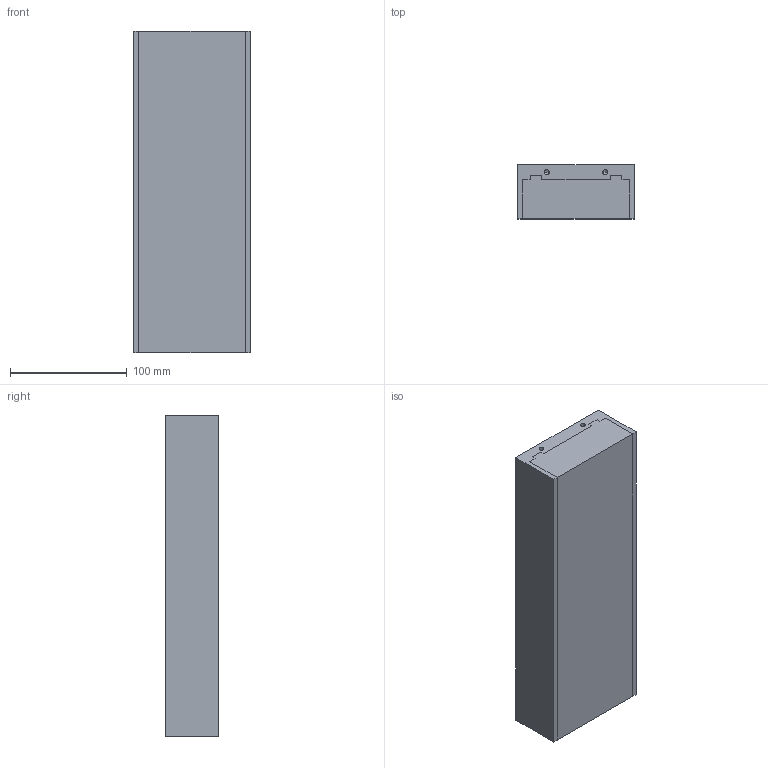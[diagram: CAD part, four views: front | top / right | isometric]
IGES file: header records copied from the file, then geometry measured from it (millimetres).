
Global section: file name: No Iges File Name specified; native system: AutoDesk Inventor R12.0; preprocessor: AutoDesk Inventor Iges Exporter R12.0; date: 20081121.155117; units: inch
Bounding box: 100 x 46 x 275.5 mm (x, y, z)
Volume: 1262303.4 mm3; surface area: 92908.8 mm2
Topology: 1 solids, 1 shells, 88 faces, 223 edges, 130 vertices
Faces by surface type: bspline 48, plane 20, cylinder 10, torus 10
